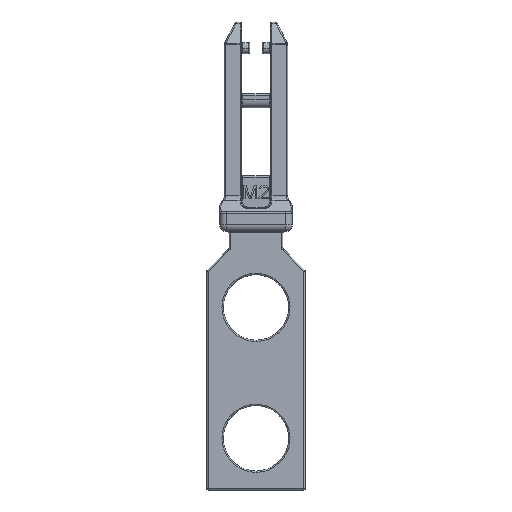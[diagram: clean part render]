
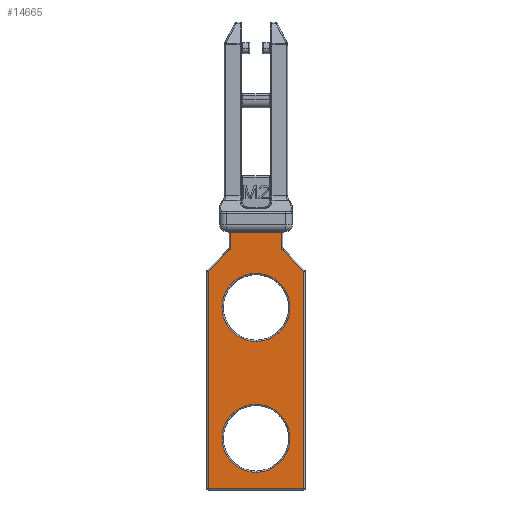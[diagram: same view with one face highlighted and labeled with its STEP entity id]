
A CAD part, front view. The second image highlights one B-rep face of the part: STEP entity #14665.
In plain terms, the highlighted planar face has unit normal (0, -1, 0).
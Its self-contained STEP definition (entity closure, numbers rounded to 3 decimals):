
#6165=DIRECTION('',(-1.,0.,0.));
#6166=VECTOR('',#6165,7.8);
#6167=CARTESIAN_POINT('',(3.9,-2.55,-3.2));
#6168=LINE('',#6167,#6166);
#6179=CARTESIAN_POINT('',(4.3,-2.55,-5.517));
#6180=DIRECTION('',(0.,-1.,0.));
#6181=DIRECTION('',(-1.,0.,0.));
#6182=AXIS2_PLACEMENT_3D('',#6179,#6180,#6181);
#6187=DIRECTION('',(0.707,0.,-0.707));
#6188=VECTOR('',#6187,4.643);
#6189=CARTESIAN_POINT('',(4.017,-2.55,-5.8));
#6190=LINE('',#6189,#6188);
#6194=DIRECTION('',(0.707,0.,0.707));
#6195=VECTOR('',#6194,4.643);
#6196=CARTESIAN_POINT('',(-7.3,-2.55,-9.083));
#6197=LINE('',#6196,#6195);
#6201=CARTESIAN_POINT('',(-4.3,-2.55,-5.517));
#6202=DIRECTION('',(0.,-1.,0.));
#6203=DIRECTION('',(0.707,0.,-0.707));
#6204=AXIS2_PLACEMENT_3D('',#6201,#6202,#6203);
#6209=CARTESIAN_POINT('',(0.,-2.55,-14.6));
#6210=DIRECTION('',(0.,-1.,0.));
#6211=DIRECTION('',(0.,0.,1.));
#6212=AXIS2_PLACEMENT_3D('',#6209,#6210,#6211);
#6217=CARTESIAN_POINT('',(0.,-2.55,-14.6));
#6218=DIRECTION('',(0.,-1.,0.));
#6219=DIRECTION('',(-0.023,0.,1.));
#6220=AXIS2_PLACEMENT_3D('',#6217,#6218,#6219);
#6225=CARTESIAN_POINT('',(0.,-2.55,-14.6));
#6226=DIRECTION('',(0.,-1.,0.));
#6227=DIRECTION('',(0.,0.,-1.));
#6228=AXIS2_PLACEMENT_3D('',#6225,#6226,#6227);
#6233=CARTESIAN_POINT('',(0.,-2.55,-14.6));
#6234=DIRECTION('',(0.,-1.,0.));
#6235=DIRECTION('',(0.023,0.,-1.));
#6236=AXIS2_PLACEMENT_3D('',#6233,#6234,#6235);
#6241=CARTESIAN_POINT('',(0.,-2.55,-34.6));
#6242=DIRECTION('',(0.,-1.,0.));
#6243=DIRECTION('',(0.,0.,-1.));
#6244=AXIS2_PLACEMENT_3D('',#6241,#6242,#6243);
#6249=CARTESIAN_POINT('',(0.,-2.55,-34.6));
#6250=DIRECTION('',(0.,-1.,0.));
#6251=DIRECTION('',(0.023,0.,-1.));
#6252=AXIS2_PLACEMENT_3D('',#6249,#6250,#6251);
#6257=CARTESIAN_POINT('',(0.,-2.55,-34.6));
#6258=DIRECTION('',(0.,-1.,0.));
#6259=DIRECTION('',(0.,0.,1.));
#6260=AXIS2_PLACEMENT_3D('',#6257,#6258,#6259);
#6265=CARTESIAN_POINT('',(0.,-2.55,-34.6));
#6266=DIRECTION('',(0.,-1.,0.));
#6267=DIRECTION('',(-0.023,0.,1.));
#6268=AXIS2_PLACEMENT_3D('',#6265,#6266,#6267);
#6280=DIRECTION('',(0.,0.,1.));
#6281=VECTOR('',#6280,2.317);
#6282=CARTESIAN_POINT('',(3.9,-2.55,-5.517));
#6283=LINE('',#6282,#6281);
#6471=DIRECTION('',(0.,0.,-1.));
#6472=VECTOR('',#6471,2.317);
#6473=CARTESIAN_POINT('',(-3.9,-2.55,-3.2));
#6474=LINE('',#6473,#6472);
#6575=DIRECTION('',(0.,0.,-1.));
#6576=VECTOR('',#6575,33.217);
#6577=CARTESIAN_POINT('',(-7.3,-2.55,-9.083));
#6578=LINE('',#6577,#6576);
#6627=DIRECTION('',(1.,0.,0.));
#6628=VECTOR('',#6627,14.6);
#6629=CARTESIAN_POINT('',(-7.3,-2.55,-42.3));
#6630=LINE('',#6629,#6628);
#6679=DIRECTION('',(0.,0.,1.));
#6680=VECTOR('',#6679,33.217);
#6681=CARTESIAN_POINT('',(7.3,-2.55,-42.3));
#6682=LINE('',#6681,#6680);
#8103=CARTESIAN_POINT('',(-3.9,-2.55,-3.2));
#8104=VERTEX_POINT('',#8103);
#8105=CARTESIAN_POINT('',(3.9,-2.55,-3.2));
#8106=VERTEX_POINT('',#8105);
#8107=CARTESIAN_POINT('',(3.9,-2.55,-5.517));
#8108=VERTEX_POINT('',#8107);
#8109=CARTESIAN_POINT('',(4.017,-2.55,-5.8));
#8110=VERTEX_POINT('',#8109);
#8111=CARTESIAN_POINT('',(7.3,-2.55,-9.083));
#8112=VERTEX_POINT('',#8111);
#8113=CARTESIAN_POINT('',(7.3,-2.55,-42.3));
#8114=VERTEX_POINT('',#8113);
#8115=CARTESIAN_POINT('',(-7.3,-2.55,-42.3));
#8116=VERTEX_POINT('',#8115);
#8117=CARTESIAN_POINT('',(-7.3,-2.55,-9.083));
#8118=VERTEX_POINT('',#8117);
#8119=CARTESIAN_POINT('',(-4.017,-2.55,-5.8));
#8120=VERTEX_POINT('',#8119);
#8121=CARTESIAN_POINT('',(-3.9,-2.55,-5.517));
#8122=VERTEX_POINT('',#8121);
#8123=CARTESIAN_POINT('',(-0.118,-2.55,-9.401));
#8124=CARTESIAN_POINT('',(0.,-2.55,-19.8));
#8125=VERTEX_POINT('',#8123);
#8126=VERTEX_POINT('',#8124);
#8127=CARTESIAN_POINT('',(0.,-2.55,-9.4));
#8128=VERTEX_POINT('',#8127);
#8129=CARTESIAN_POINT('',(0.118,-2.55,-19.799));
#8130=VERTEX_POINT('',#8129);
#8131=CARTESIAN_POINT('',(0.118,-2.55,-39.799));
#8132=CARTESIAN_POINT('',(0.,-2.55,-29.4));
#8133=VERTEX_POINT('',#8131);
#8134=VERTEX_POINT('',#8132);
#8135=CARTESIAN_POINT('',(0.,-2.55,-39.8));
#8136=VERTEX_POINT('',#8135);
#8137=CARTESIAN_POINT('',(-0.118,-2.55,-29.401));
#8138=VERTEX_POINT('',#8137);
#14619=CARTESIAN_POINT('',(0.,-2.55,0.));
#14620=DIRECTION('',(0.,1.,0.));
#14621=DIRECTION('',(0.,0.,-1.));
#14622=AXIS2_PLACEMENT_3D('',#14619,#14620,#14621);
#14623=PLANE('',#14622);
#14625=ORIENTED_EDGE('',*,*,#14624,.F.);
#14627=ORIENTED_EDGE('',*,*,#14626,.T.);
#14629=ORIENTED_EDGE('',*,*,#14628,.T.);
#14631=ORIENTED_EDGE('',*,*,#14630,.F.);
#14633=ORIENTED_EDGE('',*,*,#14632,.F.);
#14635=ORIENTED_EDGE('',*,*,#14634,.F.);
#14637=ORIENTED_EDGE('',*,*,#14636,.T.);
#14639=ORIENTED_EDGE('',*,*,#14638,.T.);
#14641=ORIENTED_EDGE('',*,*,#14640,.F.);
#14642=ORIENTED_EDGE('',*,*,#14610,.F.);
#14643=EDGE_LOOP('',(#14625,#14627,#14629,#14631,#14633,#14635,#14637,#14639,
#14641,#14642));
#14644=FACE_OUTER_BOUND('',#14643,.F.);
#14646=ORIENTED_EDGE('',*,*,#14645,.T.);
#14648=ORIENTED_EDGE('',*,*,#14647,.T.);
#14650=ORIENTED_EDGE('',*,*,#14649,.T.);
#14652=ORIENTED_EDGE('',*,*,#14651,.T.);
#14653=EDGE_LOOP('',(#14646,#14648,#14650,#14652));
#14654=FACE_BOUND('',#14653,.F.);
#14656=ORIENTED_EDGE('',*,*,#14655,.T.);
#14658=ORIENTED_EDGE('',*,*,#14657,.T.);
#14660=ORIENTED_EDGE('',*,*,#14659,.T.);
#14662=ORIENTED_EDGE('',*,*,#14661,.T.);
#14663=EDGE_LOOP('',(#14656,#14658,#14660,#14662));
#14664=FACE_BOUND('',#14663,.F.);
#6183=CIRCLE('',#6182,0.4);
#6205=CIRCLE('',#6204,0.4);
#6213=CIRCLE('',#6212,5.2);
#6221=CIRCLE('',#6220,5.2);
#6229=CIRCLE('',#6228,5.2);
#6237=CIRCLE('',#6236,5.2);
#6245=CIRCLE('',#6244,5.2);
#6253=CIRCLE('',#6252,5.2);
#6261=CIRCLE('',#6260,5.2);
#6269=CIRCLE('',#6268,5.2);
#14610=EDGE_CURVE('',#8106,#8104,#6168,.T.);
#14624=EDGE_CURVE('',#8108,#8106,#6283,.T.);
#14626=EDGE_CURVE('',#8108,#8110,#6183,.T.);
#14628=EDGE_CURVE('',#8110,#8112,#6190,.T.);
#14630=EDGE_CURVE('',#8114,#8112,#6682,.T.);
#14632=EDGE_CURVE('',#8116,#8114,#6630,.T.);
#14634=EDGE_CURVE('',#8118,#8116,#6578,.T.);
#14636=EDGE_CURVE('',#8118,#8120,#6197,.T.);
#14638=EDGE_CURVE('',#8120,#8122,#6205,.T.);
#14640=EDGE_CURVE('',#8104,#8122,#6474,.T.);
#14645=EDGE_CURVE('',#8128,#8125,#6213,.T.);
#14647=EDGE_CURVE('',#8125,#8126,#6221,.T.);
#14649=EDGE_CURVE('',#8126,#8130,#6229,.T.);
#14651=EDGE_CURVE('',#8130,#8128,#6237,.T.);
#14655=EDGE_CURVE('',#8136,#8133,#6245,.T.);
#14657=EDGE_CURVE('',#8133,#8134,#6253,.T.);
#14659=EDGE_CURVE('',#8134,#8138,#6261,.T.);
#14661=EDGE_CURVE('',#8138,#8136,#6269,.T.);
#14665=ADVANCED_FACE('',(#14644,#14654,#14664),#14623,.F.);
